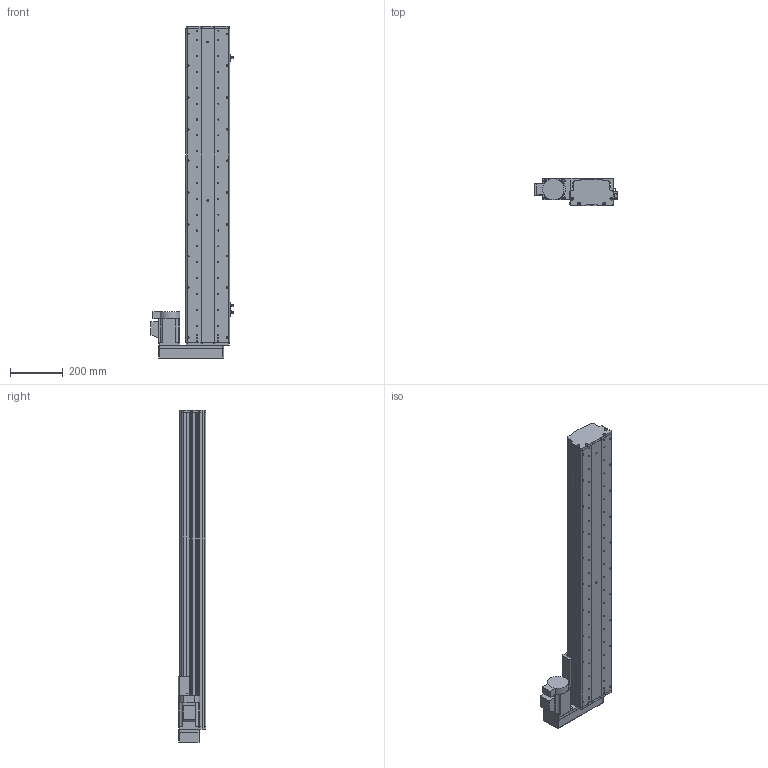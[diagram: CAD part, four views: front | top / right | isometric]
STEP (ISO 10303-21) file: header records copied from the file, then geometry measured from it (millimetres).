
FILE_DESCRIPTION (( 'STEP AP214' ), '1' );
FILE_NAME ('KSD165S-S950-MR-CM.STEP', '2017-10-18T00:57:59', ( '微软用户' ), ( '微软中国' ), 'SwSTEP 2.0', 'SolidWorks 2014', '' );
FILE_SCHEMA (( 'AUTOMOTIVE_DESIGN' ));
Length unit declared in the file: millimetre
Products named in the file (16): U倰嫖萇EEㄜSX672; KSD165耀郪-綴傷啣1; KSD165模组-丝杆滑动座-最新版; KSD165S-S950-MR-CM; 拸秶雄ん750W侜督萇儂; KSD165模组-丝杆上下左右折前端板; HTPA26S5M250-A-H8丝杆用(内径14）; HTPA26S5M250-A-H8 750W萇儂蚚; 165宽模组马达安装板连板左右折丝杆; 165宽模组保护罩左右折; KSD165模组-防尘盖1-9500行程-最新版; KSD165模组底板-950行程-最新; KSD165耀郪-佪裝-滅袉菜-3 -; KSD165耀郪-佪裝-滅袉菜-1; 覜茼え68遵圉猾敕; U倰嫖萇假蚾璃
Assembly tree (19 placements, depth 2):
  KSD165S-S950-MR-CM
    KSD165模组-丝杆滑动座-最新版
    KSD165耀郪-綴傷啣1
    U倰嫖萇EEㄜSX672  x3
    U倰嫖萇假蚾璃  x3
    覜茼え68遵圉猾敕
    KSD165耀郪-佪裝-滅袉菜-1
    KSD165耀郪-佪裝-滅袉菜-3 -
    KSD165模组底板-950行程-最新
    KSD165模组-防尘盖1-9500行程-最新版
    165宽模组保护罩左右折
    165宽模组马达安装板连板左右折丝杆
    HTPA26S5M250-A-H8 750W萇儂蚚
    HTPA26S5M250-A-H8丝杆用(内径14）
    KSD165模组-丝杆上下左右折前端板
    拸秶雄ん750W侜督萇儂
Bounding box: 311.2 x 104 x 1255.5 mm (x, y, z)
Volume: 7647100.7 mm3; surface area: 1774314 mm2
Topology: 20 solids, 20 shells, 1849 faces, 5252 edges, 3435 vertices
Faces by surface type: cylinder 1203, plane 545, cone 101
Entity records: 60995 total; most frequent: CARTESIAN_POINT 12715, DIRECTION 9823, ORIENTED_EDGE 9192, EDGE_CURVE 4596, AXIS2_PLACEMENT_3D 3855, VERTEX_POINT 3027, CIRCLE 2204, VECTOR 2113
